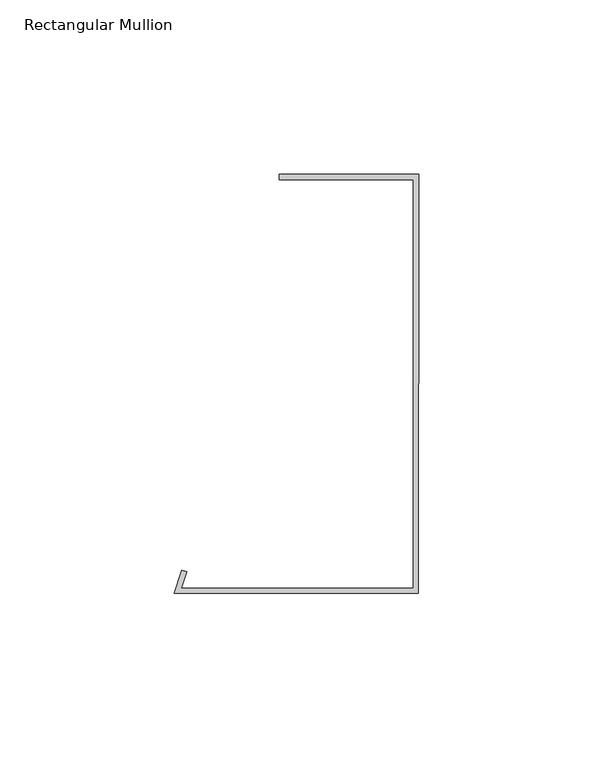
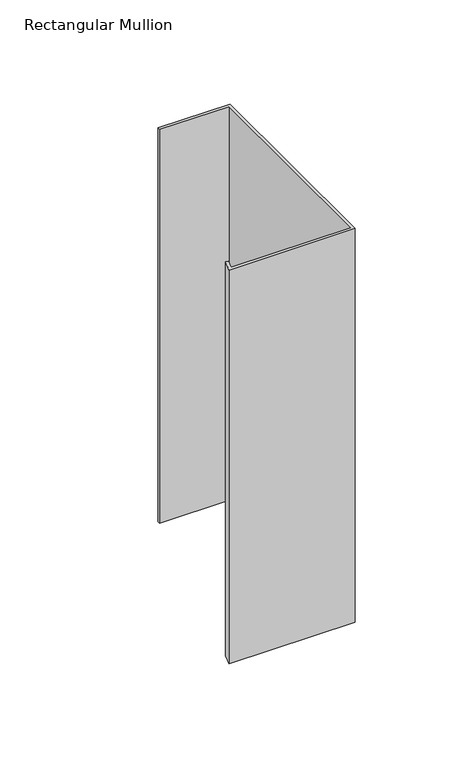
"""IFC4 building model written with IfcOpenShell, lengths in millimetres: member geometry, Rectangular Mullion : Danpal_VRS_Top-Mullion."""

from ifc_helpers import new_model, si_unit, frame, origin, place, context, project, spatial, polyline, outline, extrude, source, transform, mapped, element, save


def rectangular_mullion_8e3434e9(model_context):
    return source(origin(), model_context, "Body", "SweptSolid", [
        extrude(outline(polyline([(-67.9638912, -5.7223798), (-1.5067119, -5.7261384), (-1.500085, 111.4490233), (-40.0000849, 111.4512007), (-39.9999999, 112.9534463), (0.0, 112.9511841), (-0.0067968, -7.2284689), (-70.0067967, -7.22451), (-67.8977574, -0.494831), (-66.4665939, -0.9446924), (-67.9638912, -5.7223798)])), frame((0.0, 0.0, -231.0473223), z_axis=(0.0, 0.0, 1.0), x_axis=(1.0, 0.0, 0.0)), (0.0, 0.0, 1.0), 231.0473223),
    ])


if __name__ == "__main__":
    model = new_model("IFC4")
    model_context = context("Model", 3, world=origin())
    ifc_project = project(units=[si_unit("LENGTHUNIT", "METRE", prefix="MILLI")], contexts=[model_context])
    site = spatial("IfcSite", under=ifc_project)
    building = spatial("IfcBuilding", under=site)
    placement = place(None, origin())
    rectangular_mullion_shape = rectangular_mullion_8e3434e9(model_context)
    element("IfcMember", 1, ObjectType="Rectangular Mullion : Danpal_VRS_Top-Mullion", at=placement, inside=building, context=model_context, shape_type="MappedRepresentation", body=[
        mapped(rectangular_mullion_shape, transform((0.0, 0.0, 0.0), x_axis=(1.0, 0.0, 0.0), y_axis=(0.0, 1.0, 0.0), z_axis=(0.0, 0.0, 1.0))),
    ])
    save(model, "model.ifc")
